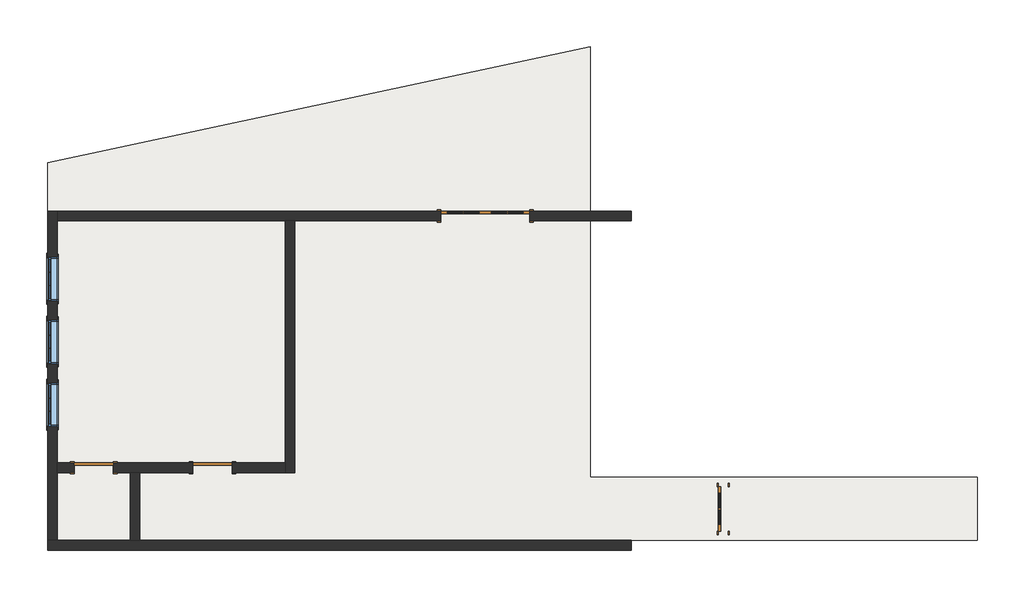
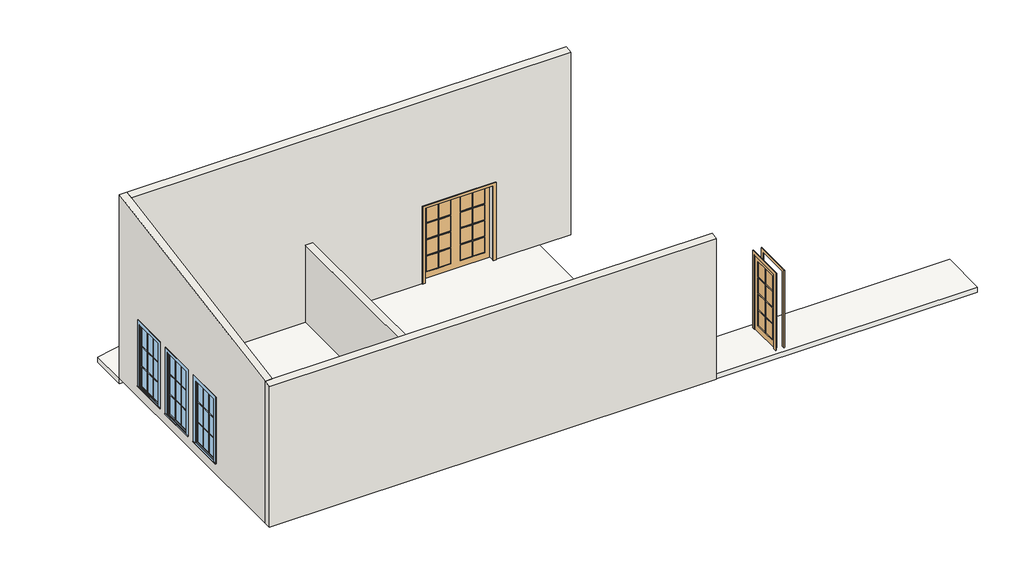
# One storey: 6 walls, 4 doors, 3 windows, 1 slab.
"""IFC4 building model written with IfcOpenShell, lengths in millimetres."""

from ifc_helpers import new_model, si_unit, frame, origin, origin_with_axes, place, context, project, spatial, polyline, outline, extrude, faceted_brep, transform, mapped, element, save
from components import door_0813_x_2134mm_cbe18f88, door_0813_x_2134mm_c8a1819b, m_double_glass_2_1830_x_2134mm_c2fbe3d0, m_single_glass_2_0915_x_2134mm_549dff17, m_casement_3x3_with_trim_0915_x_1830mm_588b5be8

model = new_model("IFC4")

# Units and contexts
model_context = context("Model", 3, world=origin())
ifc_project = project(units=[si_unit("LENGTHUNIT", "METRE", prefix="MILLI")], contexts=[model_context])

# Site, building, storey
site = spatial("IfcSite", under=ifc_project)
building = spatial("IfcBuilding", under=site)
storey = spatial("IfcBuildingStorey", under=building, Name="02 入口樓層", Elevation=0.0)

# Doors
placement = place(None, origin())
door_0813_x_2134mm_shape = door_0813_x_2134mm_cbe18f88(model_context)
element("IfcDoor", 1, ObjectType="M_單個嵌平 : 0813 x 2134mm", at=placement, inside=storey, context=model_context, shape_type="MappedRepresentation", body=[
    mapped(door_0813_x_2134mm_shape, transform((-3047.0554883, -4249.1637817, 0.0), x_axis=(1.0, 0.0, 0.0), y_axis=(0.0, 1.0, 0.0), z_axis=(0.0, 0.0, 1.0))),
])
door_0813_x_2134mm_2_shape = door_0813_x_2134mm_c8a1819b(model_context)
element("IfcDoor", 2, ObjectType="M_單個嵌平 : 0813 x 2134mm", at=placement, inside=storey, context=model_context, shape_type="MappedRepresentation", body=[
    mapped(door_0813_x_2134mm_2_shape, transform((-5497.0554883, -4249.1637817, 0.0), x_axis=(-1.0, 0.0, 0.0), y_axis=(0.0, -1.0, 0.0), z_axis=(0.0, 0.0, 1.0))),
])
m_double_glass_2_1830_x_2134mm_shape = m_double_glass_2_1830_x_2134mm_c2fbe3d0(model_context)
element("IfcDoor", 3, ObjectType="M_Double-Glass 2 : 1830 x 2134mm", at=placement, inside=storey, context=model_context, shape_type="MappedRepresentation", body=[
    mapped(m_double_glass_2_1830_x_2134mm_shape, transform((2587.9445117, 950.8362183, 0.0), x_axis=(1.0, 0.0, 0.0), y_axis=(0.0, 1.0, 0.0), z_axis=(0.0, 0.0, 1.0))),
])
m_single_glass_2_0915_x_2134mm_shape = m_single_glass_2_0915_x_2134mm_549dff17(model_context)
element("IfcDoor", 4, ObjectType="M_Single-Glass 2 : 0915 x 2134mm", at=placement, inside=storey, context=model_context, shape_type="MappedRepresentation", body=[
    mapped(m_single_glass_2_0915_x_2134mm_shape, transform((7502.9445117, -5073.7637817, 0.0), x_axis=(0.0, -1.0, 0.0), y_axis=(1.0, 0.0, 0.0), z_axis=(0.0, 0.0, 1.0))),
])

# Slab
element("IfcSlab", 5, ObjectType="一般 150mm", at=placement, inside=storey, context=model_context, shape_type="SweptSolid", body=[
    extrude(outline(polyline([(4752.9445117, -4449.1637817), (12752.9445117, -4449.1637817), (12752.9445117, -5749.1637817), (-6247.0554883, -5749.1637817), (-6247.0554883, 850.8362183), (1672.9445117, 850.8362183), (1672.9445117, 1050.8362183), (-6447.0554883, 1050.8362183), (-6447.0554883, 2050.8362183), (4752.9445117, 4450.8362183), (4752.9445117, 1120.2953175), (4752.9445117, 1050.8362183), (3502.9445117, 1050.8362183), (3502.9445117, 850.8362183), (4752.9445117, 850.8362183), (4752.9445117, -4449.1637817)])), frame((0.0, 0.0, -150.0), z_axis=(0.0, 0.0, 1.0), x_axis=(1.0, 0.0, 0.0)), (0.0, 0.0, 1.0), 150.0),
])

# Walls
element("IfcWall", 6, ObjectType="牆 200mm", at=placement, inside=storey, context=model_context, shape_type="Brep", body=[
    faceted_brep([(5602.9445117, -5749.1637817, 0.0), (-4547.0554883, -5749.1637817, 0.0), (-4747.0554883, -5749.1637817, 0.0), (-6247.0554883, -5749.1637817, 0.0), (-6447.0554883, -5749.1637817, 0.0), (-6447.0554883, -5749.1637817, 4035.2653961), (-6247.0554883, -5749.1637817, 4035.2653961), (5602.9445117, -5749.1637817, 4035.2653961), (5602.9445117, -5949.1637817, 0.0), (5602.9445117, -5949.1637817, 4000.0), (-6447.0554883, -5949.1637817, 4000.0), (-6447.0554883, -5949.1637817, 0.0)], [[[0, 1, 2, 3, 4, 5, 6, 7]], [[8, 9, 10, 11]], [[4, 3, 2, 1, 0, 8, 11]], [[0, 7, 9, 8]], [[5, 4, 11, 10]], [[7, 6, 5, 10, 9]]]),
])
element("IfcWall", 7, ObjectType="牆 200mm", at=placement, inside=storey, context=model_context, shape_type="Brep", body=[
    faceted_brep([(-6247.0554883, -5749.1637817, 0.0), (-6247.0554883, -4349.1637817, 0.0), (-6247.0554883, -4149.1637817, 0.0), (-6247.0554883, 850.8362183, 0.0), (-6247.0554883, 1050.8362183, 0.0), (-6247.0554883, 1050.8362183, 5234.288865), (-6247.0554883, 850.8362183, 5199.0234688), (-6247.0554883, -5749.1637817, 4035.2653961), (-6247.0554883, -806.6637817, 2135.0), (-6247.0554883, 108.3362183, 2135.0), (-6247.0554883, 108.3362183, 305.0), (-6247.0554883, -806.6637817, 305.0), (-6247.0554883, -2106.6637817, 2135.0), (-6247.0554883, -1191.6637817, 2135.0), (-6247.0554883, -1191.6637817, 305.0), (-6247.0554883, -2106.6637817, 305.0), (-6247.0554883, -3406.6637817, 2135.0), (-6247.0554883, -2491.6637817, 2135.0), (-6247.0554883, -2491.6637817, 305.0), (-6247.0554883, -3406.6637817, 305.0), (-6447.0554883, -5749.1637817, 0.0), (-6447.0554883, -5749.1637817, 4035.2653961), (-6447.0554883, 1050.8362183, 5234.288865), (-6447.0554883, 1050.8362183, 0.0), (-6447.0554883, -806.6637817, 2135.0), (-6447.0554883, -806.6637817, 305.0), (-6447.0554883, 108.3362183, 305.0), (-6447.0554883, 108.3362183, 2135.0), (-6447.0554883, -2106.6637817, 2135.0), (-6447.0554883, -2106.6637817, 305.0), (-6447.0554883, -1191.6637817, 305.0), (-6447.0554883, -1191.6637817, 2135.0), (-6447.0554883, -3406.6637817, 2135.0), (-6447.0554883, -3406.6637817, 305.0), (-6447.0554883, -2491.6637817, 305.0), (-6447.0554883, -2491.6637817, 2135.0)], [[[0, 1, 2, 3, 4, 5, 6, 7], [8, 9, 10, 11], [12, 13, 14, 15], [16, 17, 18, 19]], [[20, 21, 22, 23], [24, 25, 26, 27], [28, 29, 30, 31], [32, 33, 34, 35]], [[4, 3, 2, 1, 0, 20, 23]], [[5, 4, 23, 22]], [[0, 7, 21, 20]], [[7, 6, 5, 22, 21]], [[25, 24, 8, 11]], [[26, 25, 11, 10]], [[27, 26, 10, 9]], [[24, 27, 9, 8]], [[29, 28, 12, 15]], [[30, 29, 15, 14]], [[31, 30, 14, 13]], [[28, 31, 13, 12]], [[33, 32, 16, 19]], [[34, 33, 19, 18]], [[35, 34, 18, 17]], [[32, 35, 17, 16]]]),
])
element("IfcWall", 8, ObjectType="牆 200mm", at=placement, inside=storey, context=model_context, shape_type="Brep", body=[
    faceted_brep([(3502.9445117, 850.8362183, 2134.0), (3502.9445117, 850.8362183, 0.0), (5602.9445117, 850.8362183, 0.0), (5602.9445117, 850.8362183, 5199.0234688), (-6247.0554883, 850.8362183, 5199.0234688), (-6247.0554883, 850.8362183, 0.0), (-1547.0554883, 850.8362183, 0.0), (-1347.0554883, 850.8362183, 0.0), (1672.9445117, 850.8362183, 0.0), (1672.9445117, 850.8362183, 2134.0), (5602.9445117, 1050.8362183, 0.0), (3502.9445117, 1050.8362183, 0.0), (3502.9445117, 1050.8362183, 2134.0), (1672.9445117, 1050.8362183, 2134.0), (1672.9445117, 1050.8362183, 0.0), (-6247.0554883, 1050.8362183, 0.0), (-6247.0554883, 1050.8362183, 5234.288865), (5602.9445117, 1050.8362183, 5234.288865)], [[[0, 1, 2, 3, 4, 5, 6, 7, 8, 9]], [[10, 11, 12, 13, 14, 15, 16, 17]], [[2, 1, 11, 10]], [[8, 7, 6, 5, 15, 14]], [[3, 2, 10, 17]], [[5, 4, 16, 15]], [[4, 3, 17, 16]], [[12, 11, 1, 0]], [[13, 12, 0, 9]], [[14, 13, 9, 8]]]),
])
element("IfcWall", 9, ObjectType="牆 200mm", at=placement, inside=storey, context=model_context, shape_type="Brep", body=[
    faceted_brep([(-1547.0554883, 850.8362183, 0.0), (-1547.0554883, -4149.1637817, 0.0), (-1547.0554883, -4349.1637817, 0.0), (-1547.0554883, -4349.1637817, 2200.0), (-1547.0554883, -4149.1637817, 2200.0), (-1547.0554883, 850.8362183, 2200.0), (-1347.0554883, 850.8362183, 0.0), (-1347.0554883, 850.8362183, 2200.0), (-1347.0554883, -4349.1637817, 2200.0), (-1347.0554883, -4349.1637817, 0.0)], [[[0, 1, 2, 3, 4, 5]], [[6, 7, 8, 9]], [[2, 1, 0, 6, 9]], [[5, 4, 3, 8, 7]], [[3, 2, 9, 8]], [[0, 5, 7, 6]]]),
])
element("IfcWall", 10, ObjectType="牆 200mm", at=placement, inside=storey, context=model_context, shape_type="Brep", body=[
    faceted_brep([(-5903.5554883, -4149.1637817, 2134.0), (-5903.5554883, -4149.1637817, 0.0), (-6247.0554883, -4149.1637817, 0.0), (-6247.0554883, -4149.1637817, 2200.0), (-1547.0554883, -4149.1637817, 2200.0), (-1547.0554883, -4149.1637817, 0.0), (-2640.5554883, -4149.1637817, 0.0), (-2640.5554883, -4149.1637817, 2134.0), (-3453.5554883, -4149.1637817, 2134.0), (-3453.5554883, -4149.1637817, 0.0), (-5090.5554883, -4149.1637817, 0.0), (-5090.5554883, -4149.1637817, 2134.0), (-6247.0554883, -4349.1637817, 0.0), (-5903.5554883, -4349.1637817, 0.0), (-5903.5554883, -4349.1637817, 2134.0), (-5090.5554883, -4349.1637817, 2134.0), (-5090.5554883, -4349.1637817, 0.0), (-4747.0554883, -4349.1637817, 0.0), (-4547.0554883, -4349.1637817, 0.0), (-3453.5554883, -4349.1637817, 0.0), (-3453.5554883, -4349.1637817, 2134.0), (-2640.5554883, -4349.1637817, 2134.0), (-2640.5554883, -4349.1637817, 0.0), (-1547.0554883, -4349.1637817, 0.0), (-1547.0554883, -4349.1637817, 2200.0), (-4547.0554883, -4349.1637817, 2200.0), (-4747.0554883, -4349.1637817, 2200.0), (-6247.0554883, -4349.1637817, 2200.0)], [[[0, 1, 2, 3, 4, 5, 6, 7, 8, 9, 10, 11]], [[12, 13, 14, 15, 16, 17, 18, 19, 20, 21, 22, 23, 24, 25, 26, 27]], [[23, 22, 6, 5]], [[2, 1, 13, 12]], [[10, 9, 19, 18, 17, 16]], [[4, 3, 27, 26, 25, 24]], [[5, 4, 24, 23]], [[3, 2, 12, 27]], [[7, 6, 22, 21]], [[8, 7, 21, 20]], [[9, 8, 20, 19]], [[14, 13, 1, 0]], [[15, 14, 0, 11]], [[16, 15, 11, 10]]]),
])
element("IfcWall", 11, ObjectType="牆 200mm", at=placement, inside=storey, context=model_context, shape_type="SweptSolid", body=[
    extrude(outline(polyline([(-4747.0554883, -5749.1637817), (-4747.0554883, -4349.1637817), (-4547.0554883, -4349.1637817), (-4547.0554883, -5749.1637817), (-4747.0554883, -5749.1637817)])), origin_with_axes(), (0.0, 0.0, 1.0), 2200.0),
])

# Windows
m_casement_3x3_with_trim_0915_x_1830mm_shape = m_casement_3x3_with_trim_0915_x_1830mm_588b5be8(model_context)
element("IfcWindow", 12, ObjectType="M_Casement 3x3 with Trim : 0915 x 1830mm", at=placement, inside=storey, context=model_context, shape_type="MappedRepresentation", body=[
    mapped(m_casement_3x3_with_trim_0915_x_1830mm_shape, transform((-6347.0554883, -349.1637817, 0.0), x_axis=(0.0, -1.0, 0.0), y_axis=(1.0, 0.0, 0.0), z_axis=(0.0, 0.0, 1.0))),
])
element("IfcWindow", 13, ObjectType="M_Casement 3x3 with Trim : 0915 x 1830mm", at=placement, inside=storey, context=model_context, shape_type="MappedRepresentation", body=[
    mapped(m_casement_3x3_with_trim_0915_x_1830mm_shape, transform((-6347.0554883, -1649.1637817, 0.0), x_axis=(0.0, -1.0, 0.0), y_axis=(1.0, 0.0, 0.0), z_axis=(0.0, 0.0, 1.0))),
])
element("IfcWindow", 14, ObjectType="M_Casement 3x3 with Trim : 0915 x 1830mm", at=placement, inside=storey, context=model_context, shape_type="MappedRepresentation", body=[
    mapped(m_casement_3x3_with_trim_0915_x_1830mm_shape, transform((-6347.0554883, -2949.1637817, 0.0), x_axis=(0.0, -1.0, 0.0), y_axis=(1.0, 0.0, 0.0), z_axis=(0.0, 0.0, 1.0))),
])

save(model, "model.ifc")
